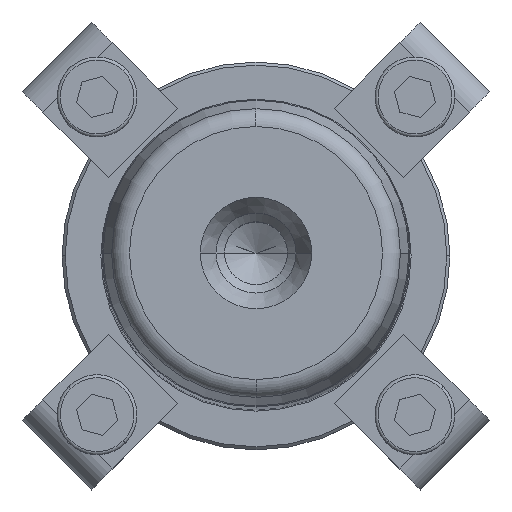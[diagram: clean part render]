
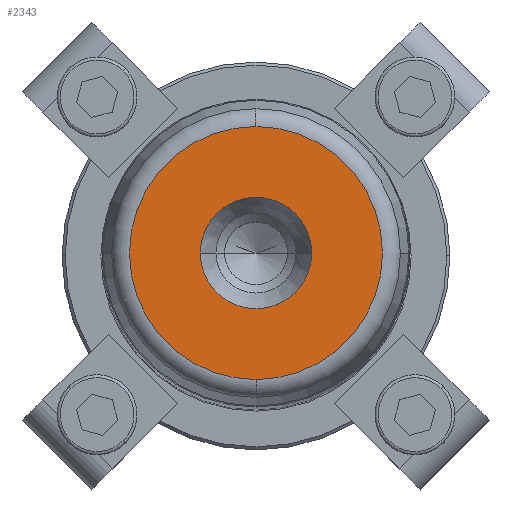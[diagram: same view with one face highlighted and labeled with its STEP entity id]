
A CAD part, top view. The second image highlights one B-rep face of the part: STEP entity #2343.
In plain terms, the highlighted planar face has unit normal (0, 0, 1).
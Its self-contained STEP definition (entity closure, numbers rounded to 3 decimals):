
#431=CARTESIAN_POINT('',(9.05,0.,280.0));
#432=VERTEX_POINT('',#431);
#439=CARTESIAN_POINT('',(-9.05,0.,280.0));
#440=VERTEX_POINT('',#439);
#441=CARTESIAN_POINT('',(0.0,0.,280.0));
#442=DIRECTION('',(0.0,0.0,1.0));
#443=DIRECTION('',(1.0,0.0,0.0));
#444=AXIS2_PLACEMENT_3D('',#441,#442,#443);
#445=CIRCLE('',#444,9.05);
#446=EDGE_CURVE('',#432,#440,#445,.T.);
#463=CARTESIAN_POINT('',(0.0,-20.554,280.0));
#464=VERTEX_POINT('',#463);
#474=CARTESIAN_POINT('',(0.,20.554,280.0));
#475=VERTEX_POINT('',#474);
#476=CARTESIAN_POINT('',(0.0,0.,280.0));
#477=DIRECTION('',(0.0,0.0,1.0));
#478=DIRECTION('',(1.0,0.0,0.0));
#479=AXIS2_PLACEMENT_3D('',#476,#477,#478);
#480=CIRCLE('',#479,20.554);
#481=EDGE_CURVE('',#475,#464,#480,.T.);
#2304=CARTESIAN_POINT('',(20.554,0.,280.0));
#2305=VERTEX_POINT('',#2304);
#2306=CARTESIAN_POINT('',(0.0,0.,280.0));
#2307=DIRECTION('',(0.0,0.0,1.0));
#2308=DIRECTION('',(1.0,0.0,0.0));
#2309=AXIS2_PLACEMENT_3D('',#2306,#2307,#2308);
#2310=CIRCLE('',#2309,20.554);
#2311=EDGE_CURVE('',#2305,#475,#2310,.T.);
#2313=CARTESIAN_POINT('',(0.0,0.,280.0));
#2314=DIRECTION('',(0.0,0.0,1.0));
#2315=DIRECTION('',(1.0,0.0,0.0));
#2316=AXIS2_PLACEMENT_3D('',#2313,#2314,#2315);
#2317=CIRCLE('',#2316,20.554);
#2318=EDGE_CURVE('',#464,#2305,#2317,.T.);
#2323=CARTESIAN_POINT('',(14.802,0.,280.0));
#2324=DIRECTION('',(0.0,0.0,1.0));
#2325=DIRECTION('',(0.0,-1.0,0.0));
#2326=AXIS2_PLACEMENT_3D('',#2323,#2324,#2325);
#2327=PLANE('',#2326);
#2328=ORIENTED_EDGE('',*,*,#2311,.T.);
#2329=ORIENTED_EDGE('',*,*,#481,.T.);
#2330=ORIENTED_EDGE('',*,*,#2318,.T.);
#2331=EDGE_LOOP('',(#2328,#2329,#2330));
#2332=FACE_OUTER_BOUND('',#2331,.T.);
#2333=ORIENTED_EDGE('',*,*,#446,.F.);
#2334=CARTESIAN_POINT('',(0.0,0.,280.0));
#2335=DIRECTION('',(0.0,0.0,1.0));
#2336=DIRECTION('',(1.0,0.0,0.0));
#2337=AXIS2_PLACEMENT_3D('',#2334,#2335,#2336);
#2338=CIRCLE('',#2337,9.05);
#2339=EDGE_CURVE('',#440,#432,#2338,.T.);
#2340=ORIENTED_EDGE('',*,*,#2339,.F.);
#2341=EDGE_LOOP('',(#2333,#2340));
#2342=FACE_BOUND('',#2341,.T.);
#2343=ADVANCED_FACE('',(#2332,#2342),#2327,.T.);
